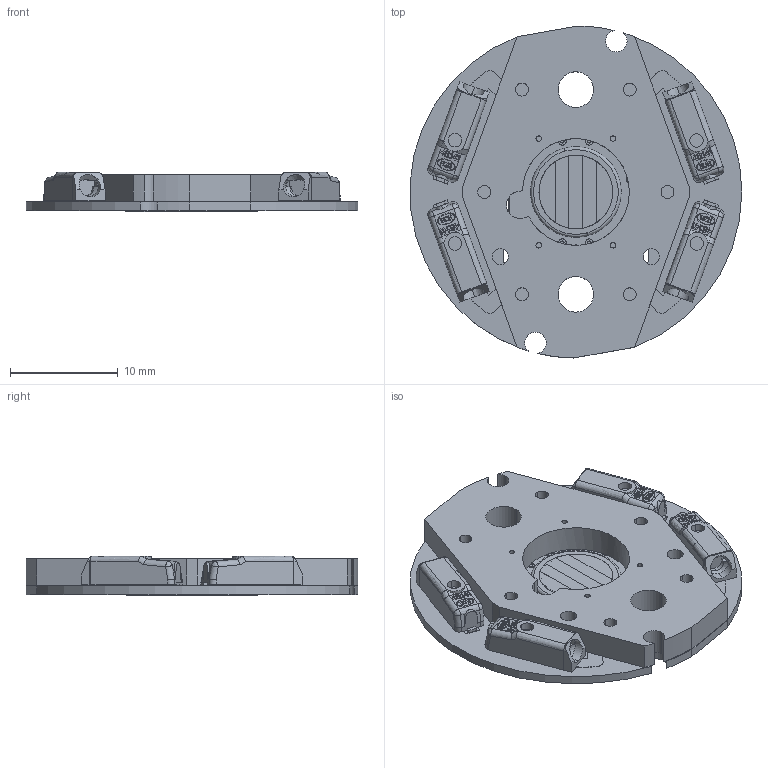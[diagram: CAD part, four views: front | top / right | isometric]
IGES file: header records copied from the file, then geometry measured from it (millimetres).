
Start section: SolidWorks IGES file using analytic representation for surfaces
Global section: file name: C:\Users\jiaqichen\Desktop\DW TW Holder-CoB\New folder\NTW 6 Holder-CoB Assembly.IGS; native system: SolidWorks 2020; preprocessor: SolidWorks 2020; author: jiaqichen; date: 200814.173424; units: millimetre
Bounding box: 30.77 x 30.8 x 3.69 mm (x, y, z)
Surface area: 3159.6 mm2 (no closed solid volume)
Topology: 0 solids, 23 shells, 1536 faces, 4074 edges, 2662 vertices
Faces by surface type: plane 964, revolution 524, bspline 48
